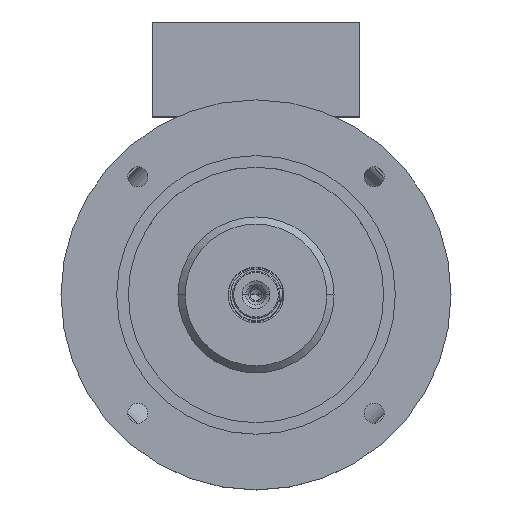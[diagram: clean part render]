
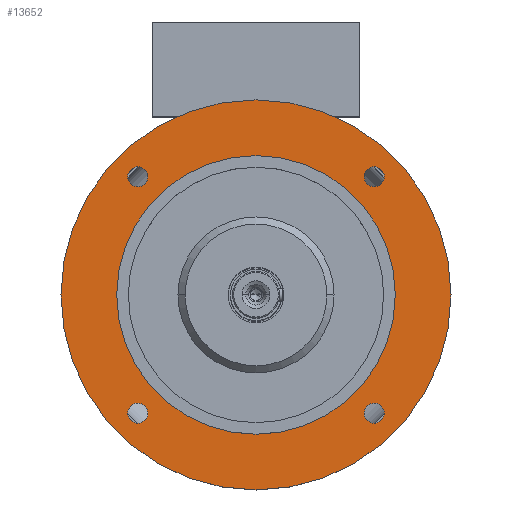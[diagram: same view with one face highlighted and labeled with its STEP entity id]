
A CAD part, top view. The second image highlights one B-rep face of the part: STEP entity #13652.
In plain terms, the highlighted planar face has unit normal (0, 0, 1).
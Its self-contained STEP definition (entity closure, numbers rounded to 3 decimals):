
#107 = VERTEX_POINT ( 'NONE', #5248 ) ;
#351 = AXIS2_PLACEMENT_3D ( 'NONE', #6485, #4195, #7685 ) ;
#396 = DIRECTION ( 'NONE',  ( 0., 0., 1. ) ) ;
#593 = ORIENTED_EDGE ( 'NONE', *, *, #10047, .F. ) ;
#879 = DIRECTION ( 'NONE',  ( 0., 0., -1. ) ) ;
#895 = EDGE_CURVE ( 'NONE', #6524, #5648, #15005, .T. ) ;
#900 = CARTESIAN_POINT ( 'NONE',  ( -115.066, -106.066, 213. ) ) ;
#1014 = EDGE_CURVE ( 'NONE', #11069, #13848, #14988, .T. ) ;
#1210 = AXIS2_PLACEMENT_3D ( 'NONE', #10421, #13980, #8064 ) ;
#1294 = EDGE_CURVE ( 'NONE', #14444, #3182, #8503, .T. ) ;
#1383 = DIRECTION ( 'NONE',  ( 0., 1., 0. ) ) ;
#1441 = DIRECTION ( 'NONE',  ( 0., 0., -1. ) ) ;
#1550 = DIRECTION ( 'NONE',  ( 0., 1., 0. ) ) ;
#1553 = EDGE_CURVE ( 'NONE', #107, #12571, #13128, .T. ) ;
#1636 = ORIENTED_EDGE ( 'NONE', *, *, #9786, .T. ) ;
#2035 = DIRECTION ( 'NONE',  ( -1., 0., 0. ) ) ;
#2139 = DIRECTION ( 'NONE',  ( 0., 0., 1. ) ) ;
#2315 = EDGE_LOOP ( 'NONE', ( #10598, #4390 ) ) ;
#2384 = AXIS2_PLACEMENT_3D ( 'NONE', #13819, #879, #13722 ) ;
#2687 = DIRECTION ( 'NONE',  ( 1., 0., 0. ) ) ;
#3182 = VERTEX_POINT ( 'NONE', #5466 ) ;
#3246 = EDGE_CURVE ( 'NONE', #3182, #14444, #13564, .T. ) ;
#3302 = EDGE_LOOP ( 'NONE', ( #6496, #4088 ) ) ;
#3452 = CIRCLE ( 'NONE', #1210, 9. ) ;
#3481 = AXIS2_PLACEMENT_3D ( 'NONE', #11453, #12482, #2035 ) ;
#3912 = CARTESIAN_POINT ( 'NONE',  ( 0., 175., 213. ) ) ;
#3955 = AXIS2_PLACEMENT_3D ( 'NONE', #14687, #14837, #8917 ) ;
#4022 = ORIENTED_EDGE ( 'NONE', *, *, #1553, .F. ) ;
#4028 = EDGE_LOOP ( 'NONE', ( #1636, #13921 ) ) ;
#4088 = ORIENTED_EDGE ( 'NONE', *, *, #1014, .F. ) ;
#4195 = DIRECTION ( 'NONE',  ( 0., 0., 1. ) ) ;
#4390 = ORIENTED_EDGE ( 'NONE', *, *, #895, .F. ) ;
#4626 = AXIS2_PLACEMENT_3D ( 'NONE', #6904, #14067, #7059 ) ;
#4630 = EDGE_LOOP ( 'NONE', ( #8054, #4022 ) ) ;
#4689 = CIRCLE ( 'NONE', #3481, 125. ) ;
#4762 = CARTESIAN_POINT ( 'NONE',  ( -106.066, 106.066, 213. ) ) ;
#4844 = CARTESIAN_POINT ( 'NONE',  ( 0., 0., 213. ) ) ;
#4914 = PLANE ( 'NONE',  #12355 ) ;
#4986 = EDGE_CURVE ( 'NONE', #6527, #7817, #4689, .T. ) ;
#5248 = CARTESIAN_POINT ( 'NONE',  ( -115.066, 106.066, 213. ) ) ;
#5466 = CARTESIAN_POINT ( 'NONE',  ( 175., 0., 213. ) ) ;
#5552 = CARTESIAN_POINT ( 'NONE',  ( 115.066, 106.066, 213. ) ) ;
#5648 = VERTEX_POINT ( 'NONE', #10969 ) ;
#6075 = EDGE_CURVE ( 'NONE', #13848, #11069, #10245, .T. ) ;
#6193 = FACE_BOUND ( 'NONE', #3302, .T. ) ;
#6233 = VERTEX_POINT ( 'NONE', #900 ) ;
#6393 = CARTESIAN_POINT ( 'NONE',  ( -97.066, -106.066, 213. ) ) ;
#6485 = CARTESIAN_POINT ( 'NONE',  ( -106.066, 106.066, 213. ) ) ;
#6496 = ORIENTED_EDGE ( 'NONE', *, *, #6075, .F. ) ;
#6524 = VERTEX_POINT ( 'NONE', #10730 ) ;
#6527 = VERTEX_POINT ( 'NONE', #8373 ) ;
#6614 = CARTESIAN_POINT ( 'NONE',  ( -97.066, 106.066, 213. ) ) ;
#6859 = DIRECTION ( 'NONE',  ( 1., 0., 0. ) ) ;
#6904 = CARTESIAN_POINT ( 'NONE',  ( -106.066, -106.066, 213. ) ) ;
#7059 = DIRECTION ( 'NONE',  ( 0., -1., 0. ) ) ;
#7129 = FACE_BOUND ( 'NONE', #4630, .T. ) ;
#7239 = EDGE_LOOP ( 'NONE', ( #14122, #593 ) ) ;
#7506 = AXIS2_PLACEMENT_3D ( 'NONE', #10367, #2139, #6859 ) ;
#7685 = DIRECTION ( 'NONE',  ( -1., 0., 0. ) ) ;
#7730 = CARTESIAN_POINT ( 'NONE',  ( 97.066, 106.066, 213. ) ) ;
#7817 = VERTEX_POINT ( 'NONE', #7827 ) ;
#7827 = CARTESIAN_POINT ( 'NONE',  ( -125., 0., 213. ) ) ;
#8043 = CIRCLE ( 'NONE', #11812, 125. ) ;
#8054 = ORIENTED_EDGE ( 'NONE', *, *, #11168, .F. ) ;
#8064 = DIRECTION ( 'NONE',  ( 0., -1., 0. ) ) ;
#8373 = CARTESIAN_POINT ( 'NONE',  ( 125., 0., 213. ) ) ;
#8443 = EDGE_CURVE ( 'NONE', #14191, #6233, #3452, .T. ) ;
#8503 = CIRCLE ( 'NONE', #2384, 175. ) ;
#8608 = CIRCLE ( 'NONE', #4626, 9. ) ;
#8786 = FACE_BOUND ( 'NONE', #2315, .T. ) ;
#8917 = DIRECTION ( 'NONE',  ( -1., 0., 0. ) ) ;
#9241 = CARTESIAN_POINT ( 'NONE',  ( -175., 0., 213. ) ) ;
#9773 = CARTESIAN_POINT ( 'NONE',  ( 106.066, -106.066, 213. ) ) ;
#9786 = EDGE_CURVE ( 'NONE', #7817, #6527, #8043, .T. ) ;
#10047 = EDGE_CURVE ( 'NONE', #6233, #14191, #8608, .T. ) ;
#10245 = CIRCLE ( 'NONE', #13926, 9. ) ;
#10265 = CIRCLE ( 'NONE', #11623, 9. ) ;
#10367 = CARTESIAN_POINT ( 'NONE',  ( 106.066, -106.066, 213. ) ) ;
#10421 = CARTESIAN_POINT ( 'NONE',  ( -106.066, -106.066, 213. ) ) ;
#10598 = ORIENTED_EDGE ( 'NONE', *, *, #13247, .F. ) ;
#10623 = DIRECTION ( 'NONE',  ( -1., 0., 0. ) ) ;
#10651 = AXIS2_PLACEMENT_3D ( 'NONE', #9773, #10926, #2687 ) ;
#10680 = CARTESIAN_POINT ( 'NONE',  ( 106.066, 106.066, 213. ) ) ;
#10730 = CARTESIAN_POINT ( 'NONE',  ( 97.066, -106.066, 213. ) ) ;
#10902 = DIRECTION ( 'NONE',  ( 0., 0., 1. ) ) ;
#10926 = DIRECTION ( 'NONE',  ( 0., 0., 1. ) ) ;
#10952 = CARTESIAN_POINT ( 'NONE',  ( 106.066, 106.066, 213. ) ) ;
#10969 = CARTESIAN_POINT ( 'NONE',  ( 115.066, -106.066, 213. ) ) ;
#11069 = VERTEX_POINT ( 'NONE', #7730 ) ;
#11168 = EDGE_CURVE ( 'NONE', #12571, #107, #10265, .T. ) ;
#11373 = ORIENTED_EDGE ( 'NONE', *, *, #1294, .F. ) ;
#11453 = CARTESIAN_POINT ( 'NONE',  ( 0., 0., 213. ) ) ;
#11623 = AXIS2_PLACEMENT_3D ( 'NONE', #4762, #11934, #13083 ) ;
#11812 = AXIS2_PLACEMENT_3D ( 'NONE', #4844, #1441, #10623 ) ;
#11822 = DIRECTION ( 'NONE',  ( 0., 0., 1. ) ) ;
#11934 = DIRECTION ( 'NONE',  ( 0., 0., 1. ) ) ;
#12151 = FACE_BOUND ( 'NONE', #4028, .T. ) ;
#12355 = AXIS2_PLACEMENT_3D ( 'NONE', #3912, #10902, #13425 ) ;
#12482 = DIRECTION ( 'NONE',  ( 0., 0., -1. ) ) ;
#12571 = VERTEX_POINT ( 'NONE', #6614 ) ;
#12703 = FACE_BOUND ( 'NONE', #7239, .T. ) ;
#13083 = DIRECTION ( 'NONE',  ( -1., 0., 0. ) ) ;
#13128 = CIRCLE ( 'NONE', #351, 9. ) ;
#13247 = EDGE_CURVE ( 'NONE', #5648, #6524, #14556, .T. ) ;
#13425 = DIRECTION ( 'NONE',  ( 1., 0., 0. ) ) ;
#13564 = CIRCLE ( 'NONE', #3955, 175. ) ;
#13652 = ADVANCED_FACE ( 'NONE', ( #12703, #7129, #6193, #8786, #12151, #14731 ), #4914, .T. ) ;
#13722 = DIRECTION ( 'NONE',  ( -1., 0., 0. ) ) ;
#13819 = CARTESIAN_POINT ( 'NONE',  ( 0., 0., 213. ) ) ;
#13848 = VERTEX_POINT ( 'NONE', #5552 ) ;
#13921 = ORIENTED_EDGE ( 'NONE', *, *, #4986, .T. ) ;
#13926 = AXIS2_PLACEMENT_3D ( 'NONE', #10952, #396, #1550 ) ;
#13980 = DIRECTION ( 'NONE',  ( 0., 0., 1. ) ) ;
#14067 = DIRECTION ( 'NONE',  ( 0., 0., 1. ) ) ;
#14122 = ORIENTED_EDGE ( 'NONE', *, *, #8443, .F. ) ;
#14191 = VERTEX_POINT ( 'NONE', #6393 ) ;
#14381 = EDGE_LOOP ( 'NONE', ( #11373, #15058 ) ) ;
#14444 = VERTEX_POINT ( 'NONE', #9241 ) ;
#14556 = CIRCLE ( 'NONE', #10651, 9. ) ;
#14687 = CARTESIAN_POINT ( 'NONE',  ( 0., 0., 213. ) ) ;
#14731 = FACE_OUTER_BOUND ( 'NONE', #14381, .T. ) ;
#14837 = DIRECTION ( 'NONE',  ( 0., 0., -1. ) ) ;
#14940 = AXIS2_PLACEMENT_3D ( 'NONE', #10680, #11822, #1383 ) ;
#14988 = CIRCLE ( 'NONE', #14940, 9. ) ;
#15005 = CIRCLE ( 'NONE', #7506, 9. ) ;
#15058 = ORIENTED_EDGE ( 'NONE', *, *, #3246, .F. ) ;
